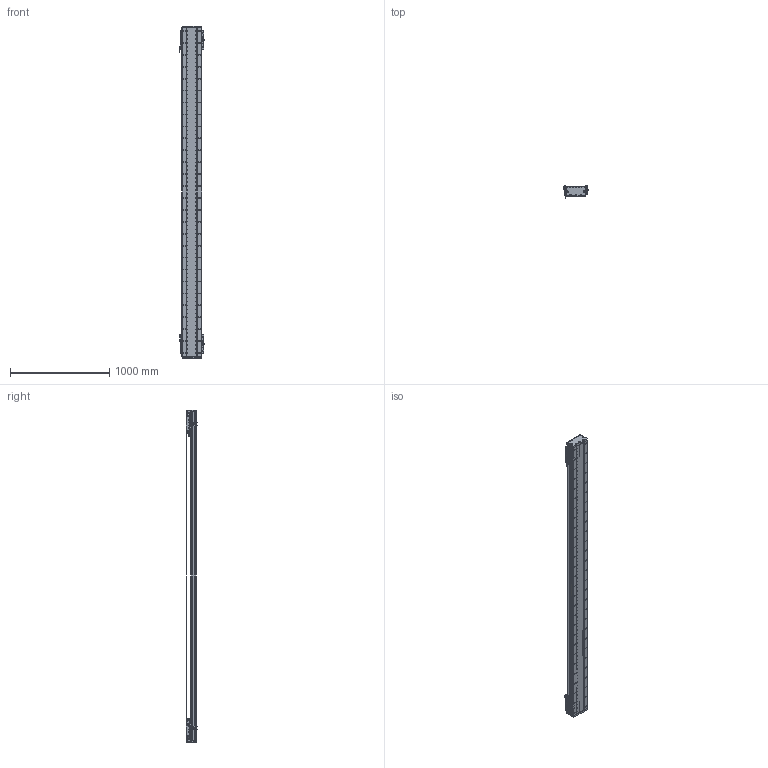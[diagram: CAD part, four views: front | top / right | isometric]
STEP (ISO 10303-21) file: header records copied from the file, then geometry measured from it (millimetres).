
FILE_DESCRIPTION (( 'STEP AP203' ), '1' );
FILE_NAME ('DA-C195-2-C2-T2840-C010-0.2 眻盄萇儂.STEP', '2025-08-14T02:14:50', ( '' ), ( '' ), 'SwSTEP 2.0', 'SolidWorks 2019', '' );
FILE_SCHEMA (( 'CONFIG_CONTROL_DESIGN' ));
Length unit declared in the file: millimetre
Products named in the file (19): DA195詩湍裔啣-1; DA-C195-2-C2-T2840-C010-0.2 眻盄萇儂; DKW168-HXJ-ZJ-00 笢潔滅袉砎蝶-1; PM-T45ㄗ侂狟ㄘ-1; LMT黍杅芛-1; DA195詩湍嶺輸-1; 葩璃 DA95-GT-T-00-1; PM-Y65嫖萇羲壽郪璃-1; DKW-KGZ-ZJ-00 中间光电开关支架-1; DA195詩湍郪璃-1; DKW-GYP-ZJ-00 笢潔嫖萇覜茼え-1; MS200 棠掑喜S315-T1740-1; DA165-GYP-00 光电感应片(默认)-1; IU-CU195-L-00 菁釱(L3300); DA-C195-GD-DB-H-00 傷啣-1; CU195-C2賑輸-俋楷-1; IU-CU195-L 菁釱絳寢-1; DA95-HXJ-00 遣喳砎蝶-1; DA195詩湍菜輸-1
Assembly tree (37 placements, depth 3):
  DA-C195-2-C2-T2840-C010-0.2 眻盄萇儂
    DA195詩湍郪璃-1
      DA195詩湍菜輸-1  x2
      DA195詩湍裔啣-1
      DA195詩湍嶺輸-1  x2
      DA95-HXJ-00 遣喳砎蝶-1  x8
      DA-C195-GD-DB-H-00 傷啣-1  x2
    IU-CU195-L 菁釱絳寢-1
      IU-CU195-L-00 菁釱(L3300)
      葩璃 DA95-GT-T-00-1  x4
    LMT黍杅芛-1  x2
    MS200 棠掑喜S315-T1740-1
    PM-T45ㄗ侂狟ㄘ-1  x4
    DA165-GYP-00 光电感应片(默认)-1  x2
    PM-Y65嫖萇羲壽郪璃-1
    DKW168-HXJ-ZJ-00 笢潔滅袉砎蝶-1
    DKW-GYP-ZJ-00 笢潔嫖萇覜茼え-1
    DKW-KGZ-ZJ-00 中间光电开关支架-1
    CU195-C2賑輸-俋楷-1  x2
Bounding box: 258.2 x 115.45 x 3340 mm (x, y, z)
Volume: 19881484.8 mm3; surface area: 5839113.8 mm2
Topology: 114 solids, 242 shells, 7317 faces, 19775 edges, 12353 vertices
Faces by surface type: cylinder 3596, plane 2637, cone 916, torus 88, sphere 72, bspline 8
Entity records: 167075 total; most frequent: CARTESIAN_POINT 46851, ORIENTED_EDGE 25382, DIRECTION 23794, EDGE_CURVE 12691, AXIS2_PLACEMENT_3D 8793, VERTEX_POINT 8240, LINE 6208, VECTOR 6208
